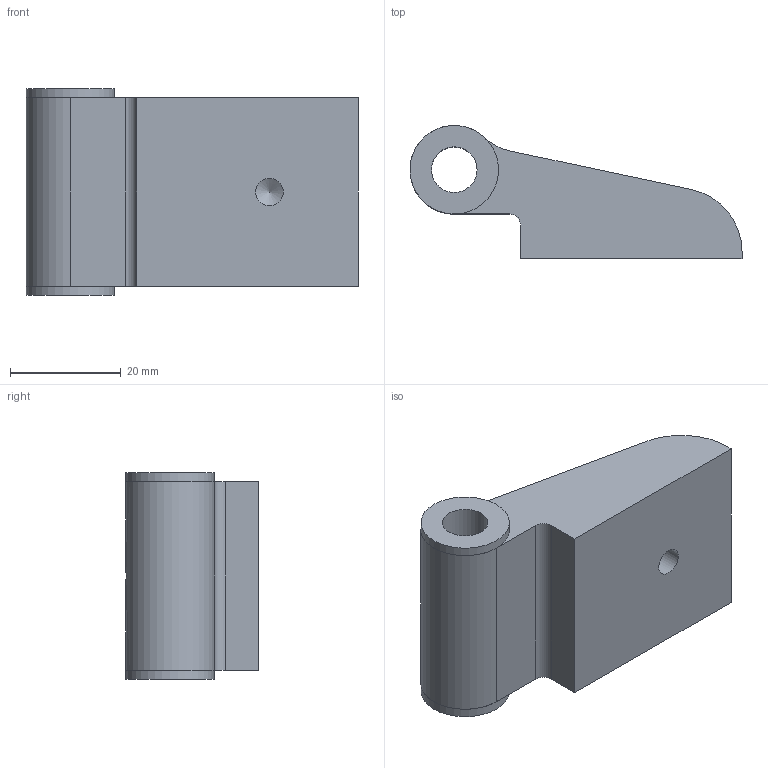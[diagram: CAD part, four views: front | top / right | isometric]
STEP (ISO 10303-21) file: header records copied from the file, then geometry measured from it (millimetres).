
FILE_DESCRIPTION (( 'STEP AP214' ), '1' );
FILE_NAME ('N50117.step', '2024-12-03T16:27:29', ( '' ), ( '' ), 'SwSTEP 2.0', 'SolidWorks 2023', '' );
FILE_SCHEMA (( 'AUTOMOTIVE_DESIGN' ));
Length unit declared in the file: millimetre
Products named in the file (1): N50117
Bounding box: 60 x 24 x 37.3 mm (x, y, z)
Volume: 26783.1 mm3; surface area: 10380.6 mm2
Topology: 3 solids, 3 shells, 27 faces, 56 edges, 37 vertices
Faces by surface type: plane 13, cylinder 13, cone 1
Full cylindrical faces by diameter (mm): 2.5 x1, 5 x1, 8.25 x2, 10.25 x3, 16 x2
Entity records: 798 total; most frequent: CARTESIAN_POINT 187, DIRECTION 123, ORIENTED_EDGE 90, AXIS2_PLACEMENT_3D 52, EDGE_LOOP 47, EDGE_CURVE 45, VERTEX_POINT 36, FACE_OUTER_BOUND 36
